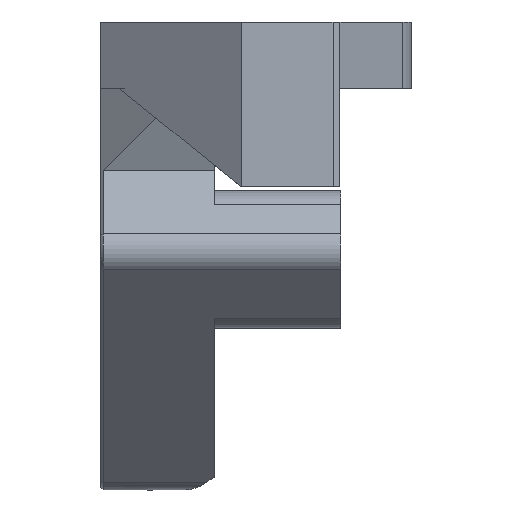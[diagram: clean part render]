
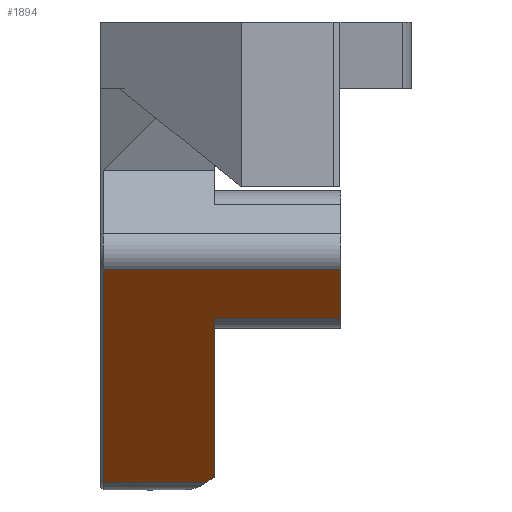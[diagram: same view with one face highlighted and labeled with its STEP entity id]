
A CAD part, left-side view. The second image highlights one B-rep face of the part: STEP entity #1894.
In plain terms, the highlighted planar face has unit normal (-0.707, 0, -0.707).
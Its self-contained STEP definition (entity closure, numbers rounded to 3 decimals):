
#24=ELLIPSE('',#2002,16.263,11.5);
#59=PLANE('',#2010);
#228=FACE_OUTER_BOUND('',#352,.T.);
#352=EDGE_LOOP('',(#1544,#1545,#1546,#1547,#1548,#1549,#1550));
#472=LINE('',#4205,#628);
#499=LINE('',#4303,#655);
#500=LINE('',#4307,#656);
#501=LINE('',#4309,#657);
#502=LINE('',#4311,#658);
#503=LINE('',#4312,#659);
#628=VECTOR('',#2214,10.);
#655=VECTOR('',#2283,2.133);
#656=VECTOR('',#2288,10.);
#657=VECTOR('',#2289,10.);
#658=VECTOR('',#2290,10.);
#659=VECTOR('',#2291,10.);
#899=VERTEX_POINT('',#4202);
#900=VERTEX_POINT('',#4204);
#916=VERTEX_POINT('',#4255);
#925=VERTEX_POINT('',#4302);
#926=VERTEX_POINT('',#4306);
#927=VERTEX_POINT('',#4308);
#928=VERTEX_POINT('',#4310);
#1112=EDGE_CURVE('',#900,#899,#472,.T.);
#1136=EDGE_CURVE('',#916,#900,#24,.T.);
#1153=EDGE_CURVE('',#916,#925,#499,.T.);
#1155=EDGE_CURVE('',#926,#899,#500,.T.);
#1156=EDGE_CURVE('',#927,#926,#501,.T.);
#1157=EDGE_CURVE('',#928,#927,#502,.T.);
#1158=EDGE_CURVE('',#925,#928,#503,.T.);
#1544=ORIENTED_EDGE('',*,*,#1136,.T.);
#1545=ORIENTED_EDGE('',*,*,#1112,.T.);
#1546=ORIENTED_EDGE('',*,*,#1155,.F.);
#1547=ORIENTED_EDGE('',*,*,#1156,.F.);
#1548=ORIENTED_EDGE('',*,*,#1157,.F.);
#1549=ORIENTED_EDGE('',*,*,#1158,.F.);
#1550=ORIENTED_EDGE('',*,*,#1153,.F.);
#1894=ADVANCED_FACE('',(#228),#59,.T.);
#2002=AXIS2_PLACEMENT_3D('',#4256,#2257,#2258);
#2010=AXIS2_PLACEMENT_3D('',#4305,#2286,#2287);
#2214=DIRECTION('',(-0.707,0.,0.707));
#2257=DIRECTION('center_axis',(0.707,0.,0.707));
#2258=DIRECTION('ref_axis',(-0.707,0.,0.707));
#2283=DIRECTION('',(0.,1.,0.));
#2286=DIRECTION('center_axis',(-0.707,0.,
-0.707));
#2287=DIRECTION('ref_axis',(0.707,0.,-0.707));
#2288=DIRECTION('',(0.,1.,0.));
#2289=DIRECTION('',(0.707,0.,-0.707));
#2290=DIRECTION('',(0.,-1.,0.));
#2291=DIRECTION('',(-0.707,0.,0.707));
#4202=CARTESIAN_POINT('',(8.775,42.458,12.237));
#4204=CARTESIAN_POINT('',(22.432,42.458,-1.421));
#4205=CARTESIAN_POINT('',(6.651,42.458,14.36));
#4255=CARTESIAN_POINT('',(22.898,43.185,-1.887));
#4256=CARTESIAN_POINT('Origin',(32.34,36.62,-11.328));
#4302=CARTESIAN_POINT('',(22.898,52.008,-1.887));
#4303=CARTESIAN_POINT('',(22.898,50.261,-1.887));
#4305=CARTESIAN_POINT('Origin',(4.55,51.908,16.462));
#4306=CARTESIAN_POINT('',(8.775,31.62,12.237));
#4307=CARTESIAN_POINT('',(8.775,46.636,12.237));
#4308=CARTESIAN_POINT('',(4.55,31.62,16.462));
#4309=CARTESIAN_POINT('',(10.867,31.62,10.145));
#4310=CARTESIAN_POINT('',(4.55,52.008,16.462));
#4311=CARTESIAN_POINT('',(4.55,40.858,16.462));
#4312=CARTESIAN_POINT('',(10.867,52.008,10.145));
